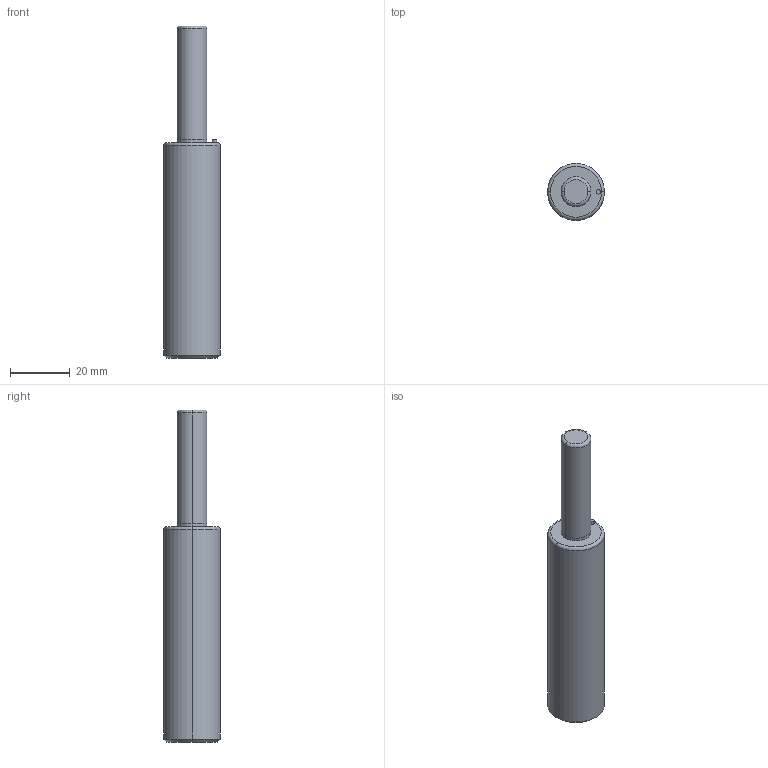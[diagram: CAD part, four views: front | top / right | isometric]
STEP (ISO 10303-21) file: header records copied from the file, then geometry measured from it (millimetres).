
FILE_DESCRIPTION(/* description */ (''),/* implementation_level */ '2;1');
FILE_NAME(/* name */ '3d_mgsc19-38_04569_r00.stp',/* time_stamp */ '2011-01-10T14:13:35+09:00',/* author */ ('MISUMI'),/* organization */ (''),/* preprocessor_version */ 'ST-DEVELOPER v11',/* originating_system */ 'UGS - NX 5.0',/* authorisation */ '');
FILE_SCHEMA (('CONFIG_CONTROL_DESIGN'));
Length unit declared in the file: millimetre
Products named in the file (1): 3d_mgsc19-38_04569_r00
Bounding box: 19 x 19 x 111 mm (x, y, z)
Volume: 23225.3 mm3; surface area: 6178.5 mm2
Topology: 1 solids, 1 shells, 24 faces, 48 edges, 27 vertices
Faces by surface type: cylinder 12, plane 4, torus 4, cone 4
Entity records: 698 total; most frequent: DIRECTION 126, CARTESIAN_POINT 98, ORIENTED_EDGE 92, AXIS2_PLACEMENT_3D 55, EDGE_CURVE 46, CIRCLE 30, EDGE_LOOP 27, VERTEX_POINT 27
